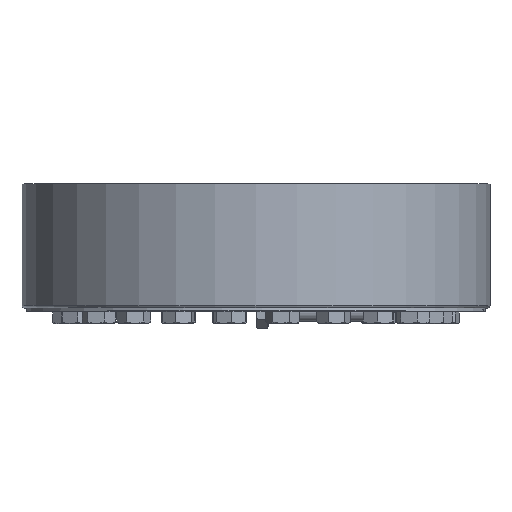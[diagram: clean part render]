
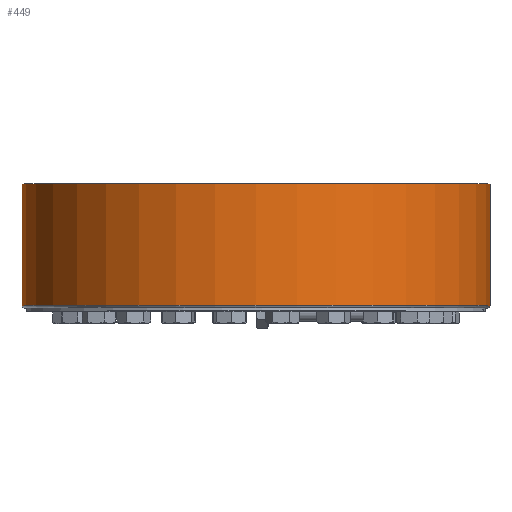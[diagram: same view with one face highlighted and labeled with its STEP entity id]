
A CAD part, top view. The second image highlights one B-rep face of the part: STEP entity #449.
In plain terms, the highlighted cylindrical face has radius 285 mm (diameter 570 mm), a full revolution.
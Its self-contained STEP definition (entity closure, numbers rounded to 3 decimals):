
#449 = ADVANCED_FACE( '', ( #704, #705 ), #706, .T. );
#704 = FACE_OUTER_BOUND( '', #920, .T. );
#705 = FACE_OUTER_BOUND( '', #921, .T. );
#706 = CYLINDRICAL_SURFACE( '', #922, 285. );
#920 = EDGE_LOOP( '', ( #1170 ) );
#921 = EDGE_LOOP( '', ( #1171 ) );
#922 = AXIS2_PLACEMENT_3D( '', #1172, #1173, #1174 );
#1170 = ORIENTED_EDGE( '', *, *, #1617, .T. );
#1171 = ORIENTED_EDGE( '', *, *, #1618, .T. );
#1172 = CARTESIAN_POINT( '', ( 0., -60., 0. ) );
#1173 = DIRECTION( '', ( 0., 1., 0. ) );
#1174 = DIRECTION( '', ( 0., 0., -1. ) );
#1617 = EDGE_CURVE( '', #1792, #1792, #1793, .F. );
#1618 = EDGE_CURVE( '', #1794, #1794, #1795, .T. );
#1792 = VERTEX_POINT( '', #1943 );
#1793 = CIRCLE( '', #1944, 285. );
#1794 = VERTEX_POINT( '', #1945 );
#1795 = CIRCLE( '', #1946, 285. );
#1943 = CARTESIAN_POINT( '', ( 0., 7., -285. ) );
#1944 = AXIS2_PLACEMENT_3D( '', #2150, #2151, #2152 );
#1945 = CARTESIAN_POINT( '', ( 0., 155., -285. ) );
#1946 = AXIS2_PLACEMENT_3D( '', #2153, #2154, #2155 );
#2150 = CARTESIAN_POINT( '', ( 0., 7., 0. ) );
#2151 = DIRECTION( '', ( 0., -1., 0. ) );
#2152 = DIRECTION( '', ( 0., 0., -1. ) );
#2153 = CARTESIAN_POINT( '', ( 0., 155., 0. ) );
#2154 = DIRECTION( '', ( 0., -1., 0. ) );
#2155 = DIRECTION( '', ( 0., 0., -1. ) );
